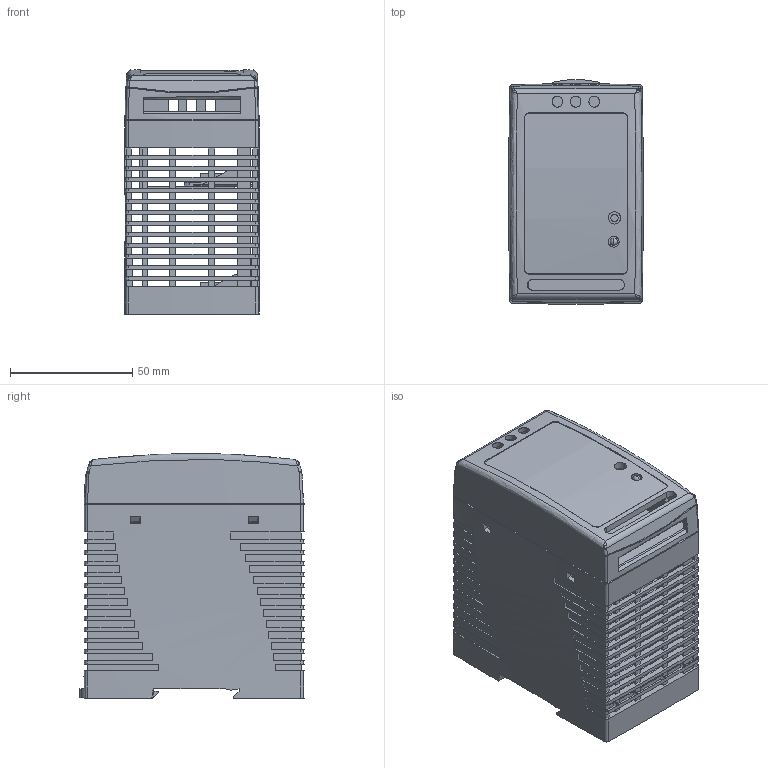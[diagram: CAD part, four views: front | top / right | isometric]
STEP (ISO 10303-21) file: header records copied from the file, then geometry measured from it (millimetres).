
FILE_DESCRIPTION(('Creo Elements/Direct Modeling STEP Export'),'2;1');
FILE_NAME('DRC-100.stp','2015-02-10T10:39:39',(''),(''),'PTC Creo Elements/Direct Modeling STEP processor for AP214 (Solid Model)','PTC Creo Elements/Direct Modeling 19.0 09-May-2014 (C) Parametric Technology GmbH','');
FILE_SCHEMA(('AUTOMOTIVE_DESIGN { 1 0 10303 214 1 1 1 1 }'));
Length unit declared in the file: millimetre
Products named in the file (27): PCB; MOS15.5x10.1; MOS; gg.1; uu; pin.1.2; hs1; ÊjˆO´t; ÊpˆO; 3p-conect.stp; Êppcb; LED; VR; a2.1; ÊpˆO´t; a2; a3; uu.1; gg.1.1; hs4; dd; 1011-TOP; 1011-top.stp; a1; SS; DRC-100
Assembly tree (29 placements, depth 6):
  DRC-100
    SS
    a1
    1011-top.stp
      1011-TOP
    dd
    hs4
      pin.1.2
      gg.1.1
      uu.1
    a3
      a2
        ÊpˆO´t
          a2.1
            VR
            LED
          Êppcb
            3p-conect.stp
            ÊpˆO
    ÊjˆO´t
      hs1
        pin.1.2
        uu
        gg.1
      MOS
        MOS15.5x10.1  x3
      PCB
        PCB
Bounding box: 55 x 91.6 x 100.04 mm (x, y, z)
Volume: 54308.3 mm3; surface area: 122607.7 mm2
Topology: 14 solids, 15 shells, 1369 faces, 4665 edges, 3082 vertices
Faces by surface type: plane 860, cylinder 246, cone 196, bspline 49, torus 16, extrusion 2
Entity records: 55281 total; most frequent: CARTESIAN_POINT 18478, ORIENTED_EDGE 8942, DIRECTION 6008, EDGE_CURVE 4465, VERTEX_POINT 2954, VECTOR 2498, LINE 2496, AXIS2_PLACEMENT_3D 1755
